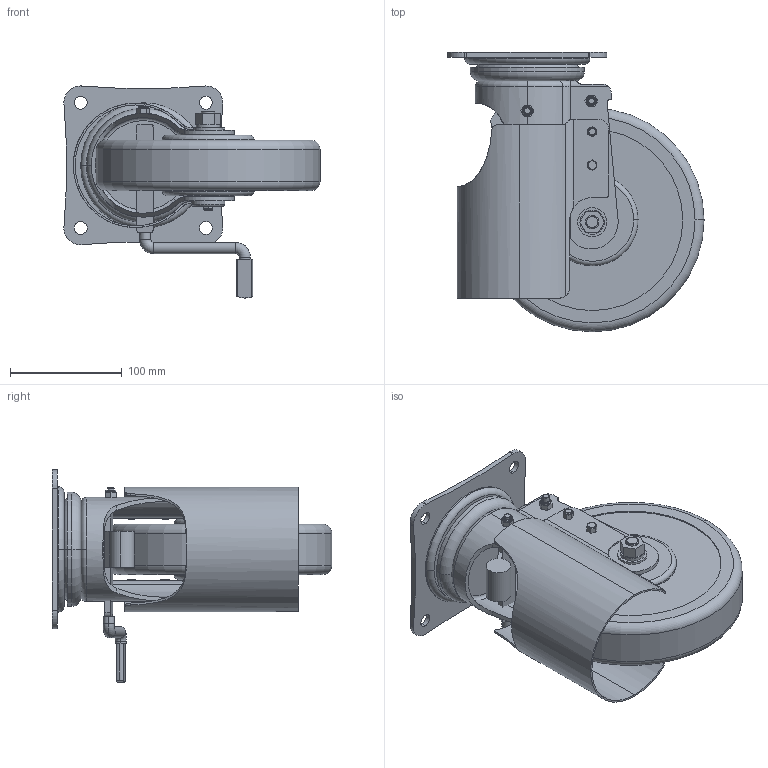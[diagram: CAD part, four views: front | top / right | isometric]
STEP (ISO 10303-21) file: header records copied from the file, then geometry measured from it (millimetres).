
FILE_DESCRIPTION (( 'STEP AP214' ), '1' );
FILE_NAME ('NSFJSZAZ200rev0.STEP', '2017-11-29T06:17:09', ( '' ), ( '' ), 'SwSTEP 2.0', 'SolidWorks 2013', '' );
FILE_SCHEMA (( 'AUTOMOTIVE_DESIGN' ));
Length unit declared in the file: millimetre
Products named in the file (7): NSFJSZAZ200rev5; NSFJSZAZ200rev1; NSFJSZAZ200rev3; NSFJSZAZ200rev2; NSFJSZAZ200rev0; NSFJSZAZ200rev6
Assembly tree (6 placements, depth 2):
  NSFJSZAZ200rev0
    NSFJSZAZ200rev2
    NSFJSZAZ200rev3
    NSFJSZAZ200rev1
    NSFJSZAZ200rev1
    NSFJSZAZ200rev5
    NSFJSZAZ200rev6
Bounding box: 228.96 x 250 x 189.6 mm (x, y, z)
Volume: 1905766.3 mm3; surface area: 331309 mm2
Topology: 6 solids, 6 shells, 359 faces, 868 edges, 544 vertices
Faces by surface type: plane 152, cylinder 143, torus 45, bspline 10, cone 6, sphere 3
Entity records: 11868 total; most frequent: CARTESIAN_POINT 3102, DIRECTION 1869, ORIENTED_EDGE 1728, EDGE_CURVE 864, AXIS2_PLACEMENT_3D 729, VERTEX_POINT 544, VECTOR 411, LINE 411
